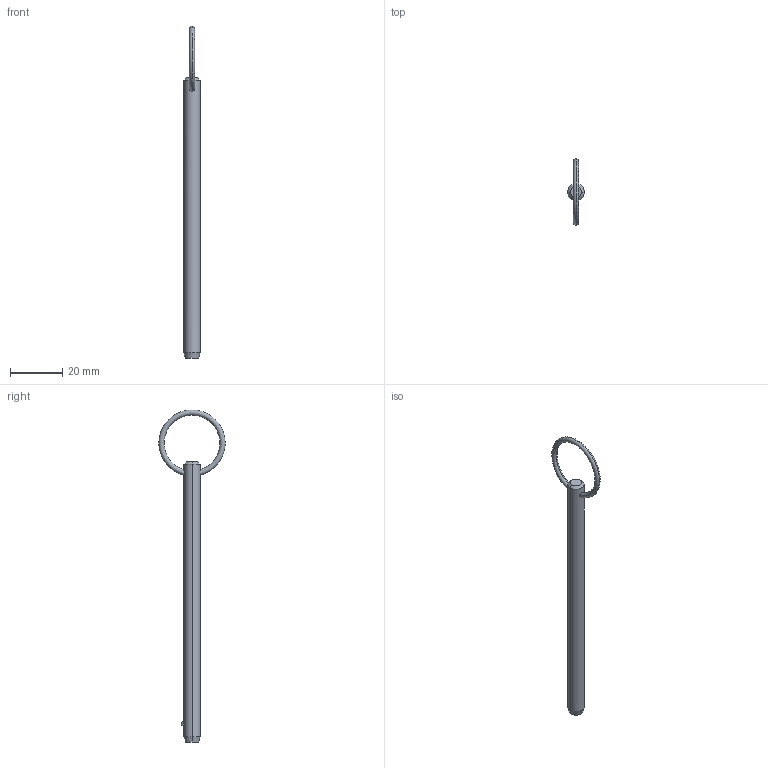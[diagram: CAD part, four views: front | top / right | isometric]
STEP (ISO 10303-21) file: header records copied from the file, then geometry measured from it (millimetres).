
FILE_DESCRIPTION (( 'STEP AP203' ), '1' );
FILE_NAME ('P1250.025-370.step', '2019-07-29T19:46:07', ( '' ), ( '' ), 'SwSTEP 2.0', 'SolidWorks 2017', '' );
FILE_SCHEMA (( 'CONFIG_CONTROL_DESIGN' ));
Length unit declared in the file: millimetre
Products named in the file (1): P1250.025-370
Bounding box: 6.35 x 25.38 x 127.32 mm (x, y, z)
Volume: 3598.1 mm3; surface area: 2601.9 mm2
Topology: 1 solids, 1 shells, 12 faces, 28 edges, 17 vertices
Faces by surface type: cone 4, torus 2, sphere 2, cylinder 2, plane 2
Entity records: 481 total; most frequent: CARTESIAN_POINT 148, DIRECTION 56, ORIENTED_EDGE 48, AXIS2_PLACEMENT_3D 25, EDGE_CURVE 24, EDGE_LOOP 15, VERTEX_POINT 15, FACE_OUTER_BOUND 12
